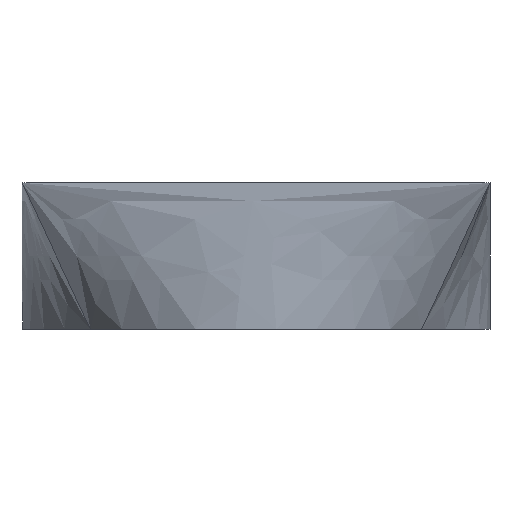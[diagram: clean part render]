
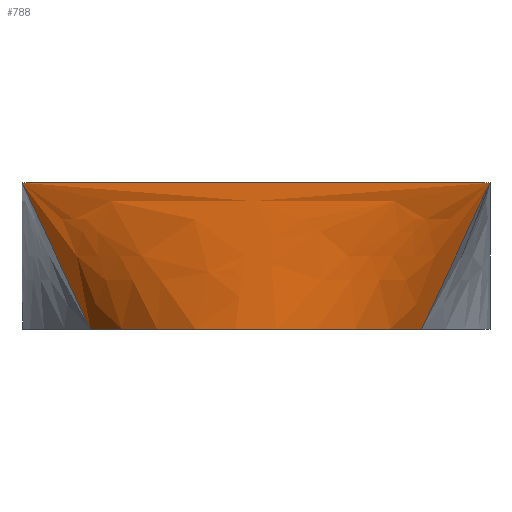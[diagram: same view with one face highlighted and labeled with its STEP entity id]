
A CAD part, front view. The second image highlights one B-rep face of the part: STEP entity #788.
In plain terms, the highlighted free-form (B-spline) face has degree [9, 1] with [10, 2] control points.
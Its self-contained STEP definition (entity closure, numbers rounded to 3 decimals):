
#56 = PLANE('',#57);
#57 = AXIS2_PLACEMENT_3D('',#58,#59,#60);
#58 = CARTESIAN_POINT('',(0.,0.,0.));
#59 = DIRECTION('',(0.,0.,1.));
#60 = DIRECTION('',(1.,0.,-0.));
#127 = PLANE('',#128);
#128 = AXIS2_PLACEMENT_3D('',#129,#130,#131);
#129 = CARTESIAN_POINT('',(128.,0.,80.));
#130 = DIRECTION('',(0.,0.,1.));
#131 = DIRECTION('',(-0.894,0.447,0.));
#152 = B_SPLINE_SURFACE_WITH_KNOTS('',7,1,(
    (#153,#154)
    ,(#155,#156)
    ,(#157,#158)
    ,(#159,#160)
    ,(#161,#162)
    ,(#163,#164)
    ,(#165,#166)
    ,(#167,#168
    )),.UNSPECIFIED.,.F.,.F.,.F.,(8,8),(2,2),(0.,128.),(0.,1.),
  .PIECEWISE_BEZIER_KNOTS.);
#153 = CARTESIAN_POINT('',(90.51,-90.51,0.));
#154 = CARTESIAN_POINT('',(128.,-128.,80.));
#155 = CARTESIAN_POINT('',(100.665,-80.355,0.));
#156 = CARTESIAN_POINT('',(128.,-109.714,80.));
#157 = CARTESIAN_POINT('',(109.491,-68.87,0.));
#158 = CARTESIAN_POINT('',(128.,-91.429,80.));
#159 = CARTESIAN_POINT('',(116.778,-56.265,0.));
#160 = CARTESIAN_POINT('',(128.,-73.143,80.));
#161 = CARTESIAN_POINT('',(122.36,-42.789,0.));
#162 = CARTESIAN_POINT('',(128.,-54.857,80.));
#163 = CARTESIAN_POINT('',(126.12,-28.723,0.));
#164 = CARTESIAN_POINT('',(128.,-36.571,80.));
#165 = CARTESIAN_POINT('',(128.,-14.362,0.));
#166 = CARTESIAN_POINT('',(128.,-18.286,80.));
#167 = CARTESIAN_POINT('',(128.,0.,0.));
#168 = CARTESIAN_POINT('',(128.,0.,80.));
#204 = VERTEX_POINT('',#205);
#205 = CARTESIAN_POINT('',(-90.51,-90.51,0.));
#220 = B_SPLINE_SURFACE_WITH_KNOTS('',9,1,(
    (#221,#222)
    ,(#223,#224)
    ,(#225,#226)
    ,(#227,#228)
    ,(#229,#230)
    ,(#231,#232)
    ,(#233,#234)
    ,(#235,#236)
    ,(#237,#238)
    ,(#239,#240
    )),.UNSPECIFIED.,.F.,.F.,.F.,(10,10),(2,2),(0.,256.),(0.,1.),
  .PIECEWISE_BEZIER_KNOTS.);
#221 = CARTESIAN_POINT('',(-90.51,90.51,0.));
#222 = CARTESIAN_POINT('',(-128.,128.,80.));
#223 = CARTESIAN_POINT('',(-106.307,74.713,0.));
#224 = CARTESIAN_POINT('',(-128.,99.556,80.));
#225 = CARTESIAN_POINT('',(-119.002,55.814,0.));
#226 = CARTESIAN_POINT('',(-128.,71.111,80.));
#227 = CARTESIAN_POINT('',(-127.899,34.51,0.));
#228 = CARTESIAN_POINT('',(-128.,42.667,80.));
#229 = CARTESIAN_POINT('',(-132.485,11.678,0.));
#230 = CARTESIAN_POINT('',(-128.,14.222,80.));
#231 = CARTESIAN_POINT('',(-132.485,-11.678,0.));
#232 = CARTESIAN_POINT('',(-128.,-14.222,80.));
#233 = CARTESIAN_POINT('',(-127.899,-34.51,0.));
#234 = CARTESIAN_POINT('',(-128.,-42.667,80.));
#235 = CARTESIAN_POINT('',(-119.002,-55.814,0.));
#236 = CARTESIAN_POINT('',(-128.,-71.111,80.));
#237 = CARTESIAN_POINT('',(-106.307,-74.713,0.));
#238 = CARTESIAN_POINT('',(-128.,-99.556,80.));
#239 = CARTESIAN_POINT('',(-90.51,-90.51,0.));
#240 = CARTESIAN_POINT('',(-128.,-128.,80.));
#247 = EDGE_CURVE('',#204,#248,#250,.T.);
#248 = VERTEX_POINT('',#249);
#249 = CARTESIAN_POINT('',(90.51,-90.51,0.));
#250 = SURFACE_CURVE('',#251,(#256,#263),.PCURVE_S1.);
#251 = CIRCLE('',#252,128.);
#252 = AXIS2_PLACEMENT_3D('',#253,#254,#255);
#253 = CARTESIAN_POINT('',(0.,0.,0.));
#254 = DIRECTION('',(0.,0.,1.));
#255 = DIRECTION('',(1.,0.,-0.));
#256 = PCURVE('',#56,#257);
#257 = DEFINITIONAL_REPRESENTATION('',(#258),#262);
#258 = CIRCLE('',#259,128.);
#259 = AXIS2_PLACEMENT_2D('',#260,#261);
#260 = CARTESIAN_POINT('',(0.,0.));
#261 = DIRECTION('',(1.,0.));
#262 = ( GEOMETRIC_REPRESENTATION_CONTEXT(2) 
PARAMETRIC_REPRESENTATION_CONTEXT() REPRESENTATION_CONTEXT('2D SPACE',''
  ) );
#263 = PCURVE('',#264,#285);
#264 = B_SPLINE_SURFACE_WITH_KNOTS('',9,1,(
    (#265,#266)
    ,(#267,#268)
    ,(#269,#270)
    ,(#271,#272)
    ,(#273,#274)
    ,(#275,#276)
    ,(#277,#278)
    ,(#279,#280)
    ,(#281,#282)
    ,(#283,#284
    )),.UNSPECIFIED.,.F.,.F.,.F.,(10,10),(2,2),(0.,256.),(0.,1.),
  .PIECEWISE_BEZIER_KNOTS.);
#265 = CARTESIAN_POINT('',(-90.51,-90.51,0.));
#266 = CARTESIAN_POINT('',(-128.,-128.,80.));
#267 = CARTESIAN_POINT('',(-74.713,-106.307,0.));
#268 = CARTESIAN_POINT('',(-99.556,-128.,80.));
#269 = CARTESIAN_POINT('',(-55.814,-119.002,0.));
#270 = CARTESIAN_POINT('',(-71.111,-128.,80.));
#271 = CARTESIAN_POINT('',(-34.51,-127.899,0.));
#272 = CARTESIAN_POINT('',(-42.667,-128.,80.));
#273 = CARTESIAN_POINT('',(-11.678,-132.485,0.));
#274 = CARTESIAN_POINT('',(-14.222,-128.,80.));
#275 = CARTESIAN_POINT('',(11.678,-132.485,0.));
#276 = CARTESIAN_POINT('',(14.222,-128.,80.));
#277 = CARTESIAN_POINT('',(34.51,-127.899,0.));
#278 = CARTESIAN_POINT('',(42.667,-128.,80.));
#279 = CARTESIAN_POINT('',(55.814,-119.002,0.));
#280 = CARTESIAN_POINT('',(71.111,-128.,80.));
#281 = CARTESIAN_POINT('',(74.713,-106.307,0.));
#282 = CARTESIAN_POINT('',(99.556,-128.,80.));
#283 = CARTESIAN_POINT('',(90.51,-90.51,0.));
#284 = CARTESIAN_POINT('',(128.,-128.,80.));
#285 = DEFINITIONAL_REPRESENTATION('',(#286),#289);
#286 = B_SPLINE_CURVE_WITH_KNOTS('',1,(#287,#288),.UNSPECIFIED.,.F.,.F.,
  (2,2),(3.927,5.498),.PIECEWISE_BEZIER_KNOTS.);
#287 = CARTESIAN_POINT('',(0.,0.));
#288 = CARTESIAN_POINT('',(256.,0.));
#289 = ( GEOMETRIC_REPRESENTATION_CONTEXT(2) 
PARAMETRIC_REPRESENTATION_CONTEXT() REPRESENTATION_CONTEXT('2D SPACE',''
  ) );
#580 = VERTEX_POINT('',#581);
#581 = CARTESIAN_POINT('',(-128.,-128.,80.));
#602 = EDGE_CURVE('',#580,#603,#605,.T.);
#603 = VERTEX_POINT('',#604);
#604 = CARTESIAN_POINT('',(128.,-128.,80.));
#605 = SURFACE_CURVE('',#606,(#610,#617),.PCURVE_S1.);
#606 = LINE('',#607,#608);
#607 = CARTESIAN_POINT('',(-128.,-128.,80.));
#608 = VECTOR('',#609,1.);
#609 = DIRECTION('',(1.,0.,0.));
#610 = PCURVE('',#127,#611);
#611 = DEFINITIONAL_REPRESENTATION('',(#612),#616);
#612 = LINE('',#613,#614);
#613 = CARTESIAN_POINT('',(171.73,228.973));
#614 = VECTOR('',#615,1.);
#615 = DIRECTION('',(-0.894,-0.447));
#616 = ( GEOMETRIC_REPRESENTATION_CONTEXT(2) 
PARAMETRIC_REPRESENTATION_CONTEXT() REPRESENTATION_CONTEXT('2D SPACE',''
  ) );
#617 = PCURVE('',#264,#618);
#618 = DEFINITIONAL_REPRESENTATION('',(#619),#623);
#619 = LINE('',#620,#621);
#620 = CARTESIAN_POINT('',(0.,1.));
#621 = VECTOR('',#622,1.);
#622 = DIRECTION('',(1.,0.));
#623 = ( GEOMETRIC_REPRESENTATION_CONTEXT(2) 
PARAMETRIC_REPRESENTATION_CONTEXT() REPRESENTATION_CONTEXT('2D SPACE',''
  ) );
#769 = EDGE_CURVE('',#248,#603,#770,.T.);
#770 = SURFACE_CURVE('',#771,(#774,#781),.PCURVE_S1.);
#771 = B_SPLINE_CURVE_WITH_KNOTS('',1,(#772,#773),.UNSPECIFIED.,.F.,.F.,
  (2,2),(0.,1.),.PIECEWISE_BEZIER_KNOTS.);
#772 = CARTESIAN_POINT('',(90.51,-90.51,0.));
#773 = CARTESIAN_POINT('',(128.,-128.,80.));
#774 = PCURVE('',#152,#775);
#775 = DEFINITIONAL_REPRESENTATION('',(#776),#780);
#776 = LINE('',#777,#778);
#777 = CARTESIAN_POINT('',(0.,0.));
#778 = VECTOR('',#779,1.);
#779 = DIRECTION('',(0.,1.));
#780 = ( GEOMETRIC_REPRESENTATION_CONTEXT(2) 
PARAMETRIC_REPRESENTATION_CONTEXT() REPRESENTATION_CONTEXT('2D SPACE',''
  ) );
#781 = PCURVE('',#264,#782);
#782 = DEFINITIONAL_REPRESENTATION('',(#783),#787);
#783 = LINE('',#784,#785);
#784 = CARTESIAN_POINT('',(256.,0.));
#785 = VECTOR('',#786,1.);
#786 = DIRECTION('',(0.,1.));
#787 = ( GEOMETRIC_REPRESENTATION_CONTEXT(2) 
PARAMETRIC_REPRESENTATION_CONTEXT() REPRESENTATION_CONTEXT('2D SPACE',''
  ) );
#788 = ADVANCED_FACE('',(#789),#264,.T.);
#789 = FACE_BOUND('',#790,.T.);
#790 = EDGE_LOOP('',(#791,#792,#793,#794));
#791 = ORIENTED_EDGE('',*,*,#247,.T.);
#792 = ORIENTED_EDGE('',*,*,#769,.T.);
#793 = ORIENTED_EDGE('',*,*,#602,.F.);
#794 = ORIENTED_EDGE('',*,*,#795,.F.);
#795 = EDGE_CURVE('',#204,#580,#796,.T.);
#796 = SURFACE_CURVE('',#797,(#800,#807),.PCURVE_S1.);
#797 = B_SPLINE_CURVE_WITH_KNOTS('',1,(#798,#799),.UNSPECIFIED.,.F.,.F.,
  (2,2),(0.,1.),.PIECEWISE_BEZIER_KNOTS.);
#798 = CARTESIAN_POINT('',(-90.51,-90.51,0.));
#799 = CARTESIAN_POINT('',(-128.,-128.,80.));
#800 = PCURVE('',#264,#801);
#801 = DEFINITIONAL_REPRESENTATION('',(#802),#806);
#802 = LINE('',#803,#804);
#803 = CARTESIAN_POINT('',(0.,0.));
#804 = VECTOR('',#805,1.);
#805 = DIRECTION('',(0.,1.));
#806 = ( GEOMETRIC_REPRESENTATION_CONTEXT(2) 
PARAMETRIC_REPRESENTATION_CONTEXT() REPRESENTATION_CONTEXT('2D SPACE',''
  ) );
#807 = PCURVE('',#220,#808);
#808 = DEFINITIONAL_REPRESENTATION('',(#809),#813);
#809 = LINE('',#810,#811);
#810 = CARTESIAN_POINT('',(256.,0.));
#811 = VECTOR('',#812,1.);
#812 = DIRECTION('',(0.,1.));
#813 = ( GEOMETRIC_REPRESENTATION_CONTEXT(2) 
PARAMETRIC_REPRESENTATION_CONTEXT() REPRESENTATION_CONTEXT('2D SPACE',''
  ) );
